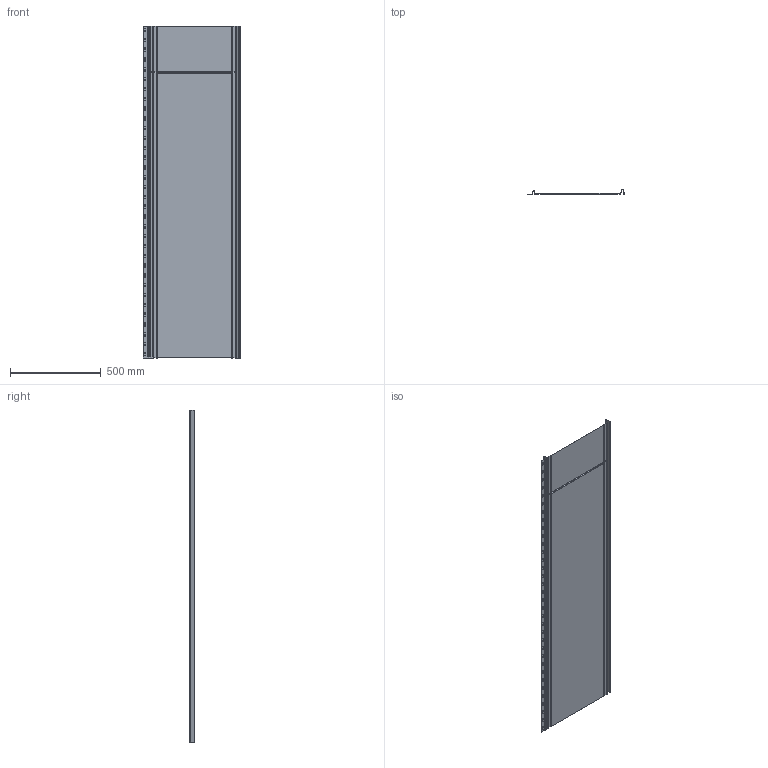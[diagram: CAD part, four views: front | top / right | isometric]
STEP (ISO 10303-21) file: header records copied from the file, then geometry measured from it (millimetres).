
FILE_DESCRIPTION(/* description */ ('STEP AP203'),/* implementation_level */ '2;1');
FILE_NAME(/* name */ 'C:\Users\Utilisateur\Mac Metal\Site de communication - Documents\Ingénierie\1. Dessins techniques produits Mac\CAD _ REVIT Profiles drawing - MAC\MS Authentic\MS AUTHENTIC.stp',/* time_stamp */ '2023-02-06T10:55:16-05:00',/* author */ ('Utilisateur'),/* organization */ (''),/* preprocessor_version */ 'ST-DEVELOPER v18.1',/* originating_system */ 'Autodesk Inventor 2022',/* authorisation */ '');
FILE_SCHEMA (('AUTOMOTIVE_DESIGN { 1 0 10303 214 3 1 1 }'));
Length unit declared in the file: inch
Products named in the file (1): MS AUTHENTIC
Bounding box: 533.4 x 26.99 x 1825.64 mm (x, y, z)
Volume: 580157.7 mm3; surface area: 2287309.9 mm2
Topology: 1 solids, 1 shells, 373 faces, 1013 edges, 642 vertices
Faces by surface type: cylinder 146, plane 133, bspline 90, cone 4
Entity records: 13949 total; most frequent: CARTESIAN_POINT 4680, ORIENTED_EDGE 2026, DIRECTION 1821, EDGE_CURVE 1013, AXIS2_PLACEMENT_3D 652, VERTEX_POINT 642, LINE 517, VECTOR 517
